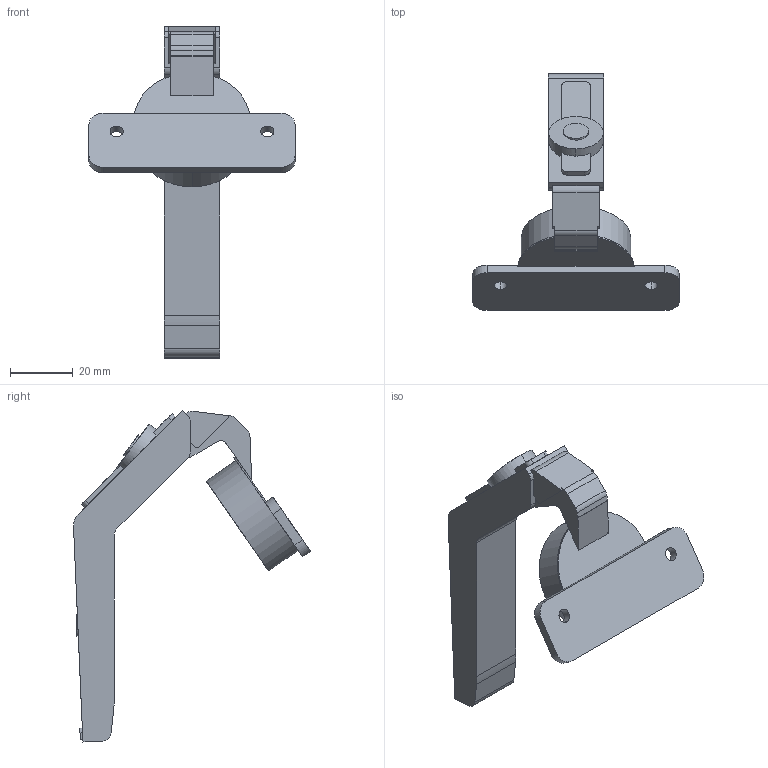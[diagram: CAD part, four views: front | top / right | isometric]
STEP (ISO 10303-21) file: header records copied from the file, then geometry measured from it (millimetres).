
FILE_DESCRIPTION (( 'STEP AP203' ), '1' );
FILE_NAME ('C82H276-DTC 3D open.STEP', '2024-09-09T06:43:38', ( '微软用户' ), ( '微软中国' ), 'SwSTEP 2.0', 'SolidWorks 2021', '' );
FILE_SCHEMA (( 'CONFIG_CONTROL_DESIGN' ));
Length unit declared in the file: millimetre
Products named in the file (1): C82H276-DTC 3D open
Bounding box: 65.6 x 75.45 x 105.69 mm (x, y, z)
Volume: 42198.1 mm3; surface area: 13621.4 mm2
Topology: 1 solids, 1 shells, 98 faces, 267 edges, 178 vertices
Faces by surface type: plane 52, cylinder 44, bspline 2
Entity records: 3208 total; most frequent: CARTESIAN_POINT 594, DIRECTION 535, ORIENTED_EDGE 534, EDGE_CURVE 267, AXIS2_PLACEMENT_3D 183, VERTEX_POINT 178, VECTOR 169, LINE 169
